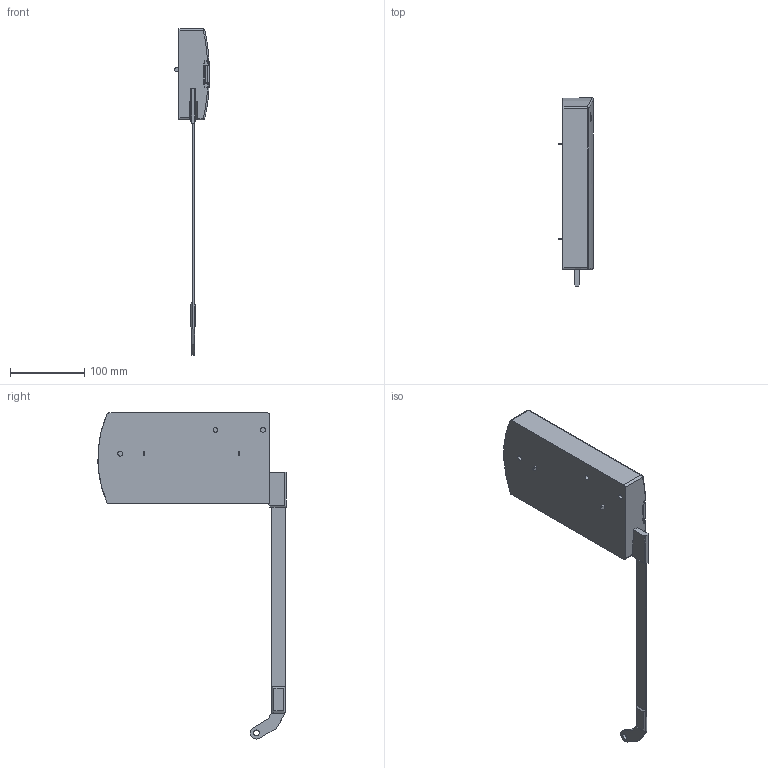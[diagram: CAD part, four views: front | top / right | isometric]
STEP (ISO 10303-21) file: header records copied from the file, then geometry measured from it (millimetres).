
FILE_DESCRIPTION (( 'STEP AP203' ), '1' );
FILE_NAME ('Kinvaro_F-20_Typ6_links_D2876028125~a.step', '2012-05-04T06:26:44', ( 'admin' ), ( 'Hewlett-Packard Company' ), 'SwSTEP 2.0', 'SolidWorks 2011', '' );
FILE_SCHEMA (( 'CONFIG_CONTROL_DESIGN' ));
Length unit declared in the file: millimetre
Products named in the file (1): Kinvaro_F-20_Typ6_links_D2876028125~a
Bounding box: 46.99 x 252.97 x 438.5 mm (x, y, z)
Volume: 1093269.1 mm3; surface area: 99187.8 mm2
Topology: 1 solids, 1 shells, 410 faces, 1130 edges, 741 vertices
Faces by surface type: cylinder 180, plane 172, bspline 46, torus 8, sphere 4
Entity records: 14396 total; most frequent: CARTESIAN_POINT 3991, ORIENTED_EDGE 2254, DIRECTION 2058, EDGE_CURVE 1127, VERTEX_POINT 741, AXIS2_PLACEMENT_3D 724, VECTOR 610, LINE 610
